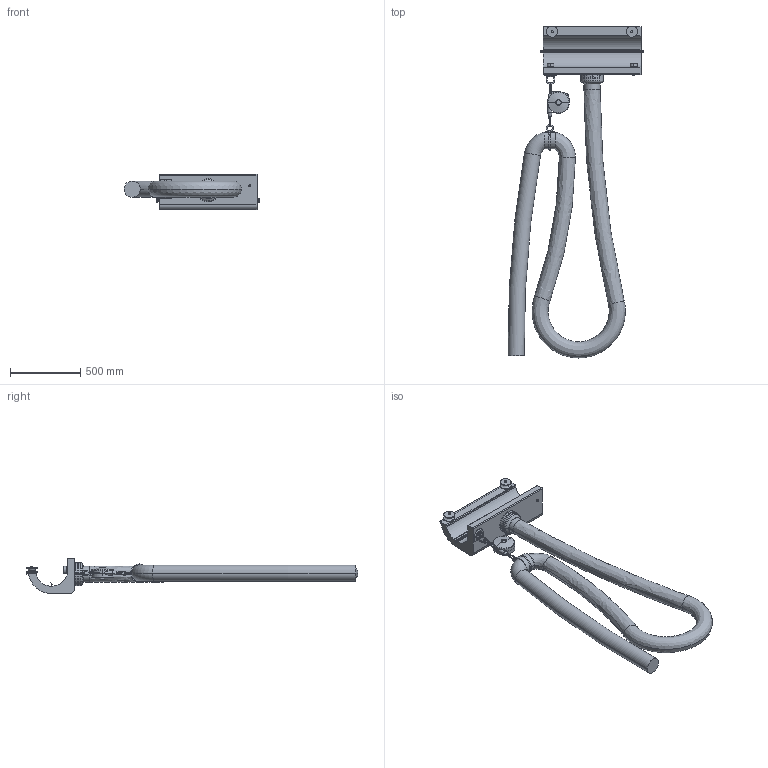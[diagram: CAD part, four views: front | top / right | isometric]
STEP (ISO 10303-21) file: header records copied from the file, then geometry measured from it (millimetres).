
FILE_DESCRIPTION((''),'2;1');
FILE_NAME('APS_510_M-L','2022-05-25T14:52:31',('Tomas Bellgran'),(''),'CREO PARAMETRIC BY PTC INC, 2018260','CREO PARAMETRIC BY PTC INC, 2018260','');
FILE_SCHEMA(('AUTOMOTIVE_DESIGN { 1 0 10303 214 1 1 1 1 }'));
Length unit declared in the file: millimetre
Products named in the file (17): 130-500_LIGHT; SURRNINGSOGLA; RCF_160-100; RF300_L; 109050-1-REF; 109050-2-REF; 109050; 109020; 129019; 108775_AF41; 115263; 109053-1-REF; 109053-2-REF; 109053; HOSE_LEFT-100; LEFT_HOSE_PKG_100; APS_510_M-L
Assembly tree (16 placements, depth 5):
  APS_510_M-L
    130-500_LIGHT
    SURRNINGSOGLA
    RCF_160-100
    LEFT_HOSE_PKG_100
      109020
        RF300_L
        109050
          109050-1-REF
          109050-2-REF
      129019
      108775_AF41
      115263
      109053
        109053-1-REF
        109053-2-REF
      HOSE_LEFT-100
Bounding box: 968.47 x 2365.72 x 251 mm (x, y, z)
Volume: 81118545.9 mm3; surface area: 3302880.1 mm2
Topology: 12 solids, 12 shells, 512 faces, 1206 edges, 750 vertices
Faces by surface type: plane 202, cylinder 189, torus 59, cone 38, bspline 16, sphere 8
Entity records: 29847 total; most frequent: CARTESIAN_POINT 6359, DIRECTION 2932, ORIENTED_EDGE 2396, PRESENTATION_STYLE_ASSIGNMENT 1475, STYLED_ITEM 1405, EDGE_CURVE 1198, AXIS2_PLACEMENT_3D 1155, CURVE_STYLE 1090
